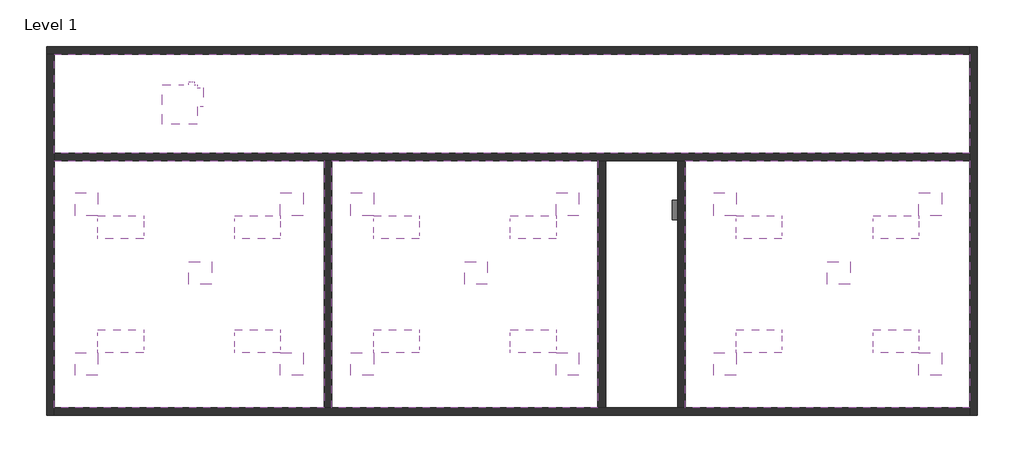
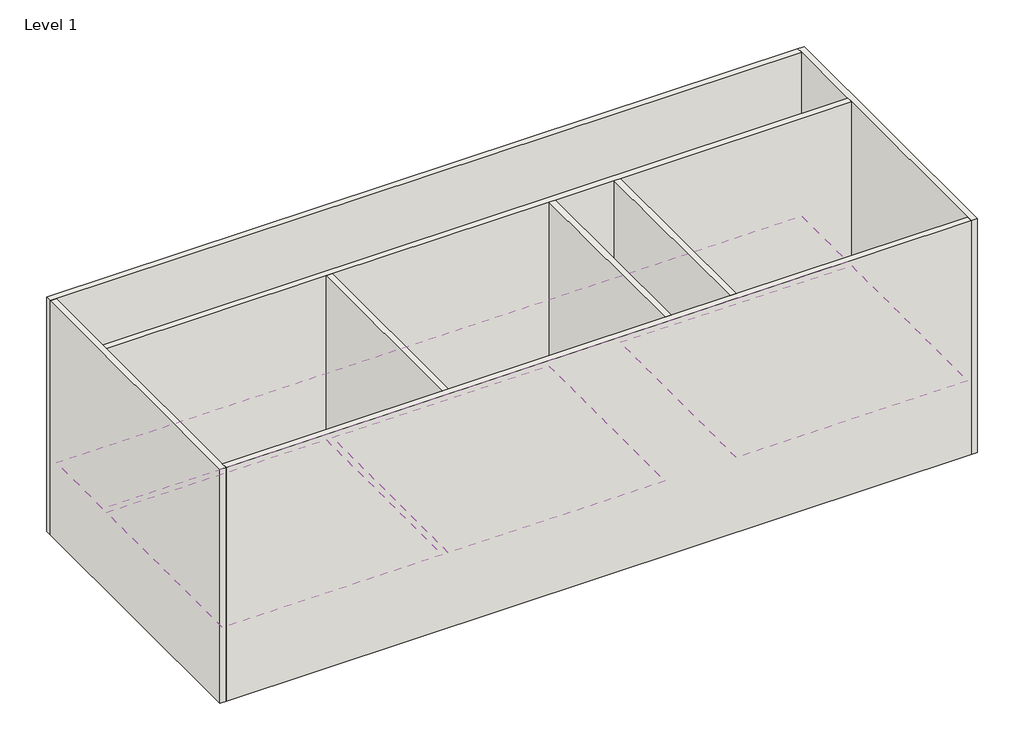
# One storey: 15 air terminals, 12 light fixtures, 8 walls, 4 coverings, 2 proxies.
"""IFC4 building model written with IfcOpenShell, lengths in millimetres."""

from ifc_helpers import new_model, si_unit, frame, origin, origin_with_axes, place, context, project, spatial, polyline, outline, extrude, faceted_brep, transform, mapped, element, save
from components import m_return_air_diffuser_m_600_x_600_face_300_x_300_connection_ff221211, proxy_250a_6d932d76, m_parallel_fan_powered_vav_m_size_2_150mm_inlet_9c7135f7, m_plain_recessed_lighting_fixture_m_600x1200_277_5b10b25d, m_plain_recessed_lighting_fixture_m_600x1200_277_dfd179b1

model = new_model("IFC4")

# Units and contexts
model_context = context("Model", 3, world=origin())
ifc_project = project(units=[si_unit("LENGTHUNIT", "METRE", prefix="MILLI")], contexts=[model_context])

# Site, building, storey
site = spatial("IfcSite", under=ifc_project)
building = spatial("IfcBuilding", under=site)
storey = spatial("IfcBuildingStorey", under=building, Name="Level 1", Elevation=0.0)

# Air terminals
placement = place(None, origin())
m_return_air_diffuser_m_600_x_600_face_300_x_300_connection_shape = m_return_air_diffuser_m_600_x_600_face_300_x_300_connection_ff221211(model_context)
element("IfcAirTerminal", 1, ObjectType="M_Return Air Diffuser : M_600 x 600 Face 300 x 300 Connection", at=placement, inside=storey, context=model_context, shape_type="MappedRepresentation", body=[
    mapped(m_return_air_diffuser_m_600_x_600_face_300_x_300_connection_shape, transform((-8576.2709161, -4662.8945822, 2400.0), x_axis=(1.0, 0.0, 0.0), y_axis=(0.0, 1.0, 0.0), z_axis=(0.0, 0.0, 1.0))),
])
element("IfcAirTerminal", 2, ObjectType="M_Return Air Diffuser : M_600 x 600 Face 300 x 300 Connection", at=placement, inside=storey, context=model_context, shape_type="MappedRepresentation", body=[
    mapped(m_return_air_diffuser_m_600_x_600_face_300_x_300_connection_shape, transform((-1326.2709161, -4662.8945822, 2400.0), x_axis=(1.0, 0.0, 0.0), y_axis=(0.0, 1.0, 0.0), z_axis=(0.0, 0.0, 1.0))),
])
element("IfcAirTerminal", 3, ObjectType="M_Return Air Diffuser : M_600 x 600 Face 300 x 300 Connection", at=placement, inside=storey, context=model_context, shape_type="MappedRepresentation", body=[
    mapped(m_return_air_diffuser_m_600_x_600_face_300_x_300_connection_shape, transform((8213.7290839, -4662.8945822, 2400.0), x_axis=(1.0, 0.0, 0.0), y_axis=(0.0, 1.0, 0.0), z_axis=(0.0, 0.0, 1.0))),
])
element("IfcAirTerminal", 4, ObjectType="M_Supply Diffuser : M_600 x 600 Face 300 x 300 Connection", at=placement, inside=storey, context=model_context, shape_type="MappedRepresentation", body=[
    mapped(m_return_air_diffuser_m_600_x_600_face_300_x_300_connection_shape, transform((-11571.4709161, -2858.0945822, 2400.0), x_axis=(1.0, 0.0, 0.0), y_axis=(0.0, 1.0, 0.0), z_axis=(0.0, 0.0, 1.0))),
])
element("IfcAirTerminal", 5, ObjectType="M_Supply Diffuser : M_600 x 600 Face 300 x 300 Connection", at=placement, inside=storey, context=model_context, shape_type="MappedRepresentation", body=[
    mapped(m_return_air_diffuser_m_600_x_600_face_300_x_300_connection_shape, transform((-6171.4709161, -2858.0945822, 2400.0), x_axis=(1.0, 0.0, 0.0), y_axis=(0.0, 1.0, 0.0), z_axis=(0.0, 0.0, 1.0))),
])
element("IfcAirTerminal", 6, ObjectType="M_Supply Diffuser : M_600 x 600 Face 300 x 300 Connection", at=placement, inside=storey, context=model_context, shape_type="MappedRepresentation", body=[
    mapped(m_return_air_diffuser_m_600_x_600_face_300_x_300_connection_shape, transform((-6171.4709161, -7058.0945822, 2400.0), x_axis=(1.0, 0.0, 0.0), y_axis=(0.0, 1.0, 0.0), z_axis=(0.0, 0.0, 1.0))),
])
element("IfcAirTerminal", 7, ObjectType="M_Supply Diffuser : M_600 x 600 Face 300 x 300 Connection", at=placement, inside=storey, context=model_context, shape_type="MappedRepresentation", body=[
    mapped(m_return_air_diffuser_m_600_x_600_face_300_x_300_connection_shape, transform((-11571.4709161, -7058.0945822, 2400.0), x_axis=(1.0, 0.0, 0.0), y_axis=(0.0, 1.0, 0.0), z_axis=(0.0, 0.0, 1.0))),
])
element("IfcAirTerminal", 8, ObjectType="M_Supply Diffuser : M_600 x 600 Face 300 x 300 Connection", at=placement, inside=storey, context=model_context, shape_type="MappedRepresentation", body=[
    mapped(m_return_air_diffuser_m_600_x_600_face_300_x_300_connection_shape, transform((-4321.4709161, -2858.0945822, 2400.0), x_axis=(1.0, 0.0, 0.0), y_axis=(0.0, 1.0, 0.0), z_axis=(0.0, 0.0, 1.0))),
])
element("IfcAirTerminal", 9, ObjectType="M_Supply Diffuser : M_600 x 600 Face 300 x 300 Connection", at=placement, inside=storey, context=model_context, shape_type="MappedRepresentation", body=[
    mapped(m_return_air_diffuser_m_600_x_600_face_300_x_300_connection_shape, transform((1078.5290839, -2858.0945822, 2400.0), x_axis=(1.0, 0.0, 0.0), y_axis=(0.0, 1.0, 0.0), z_axis=(0.0, 0.0, 1.0))),
])
element("IfcAirTerminal", 10, ObjectType="M_Supply Diffuser : M_600 x 600 Face 300 x 300 Connection", at=placement, inside=storey, context=model_context, shape_type="MappedRepresentation", body=[
    mapped(m_return_air_diffuser_m_600_x_600_face_300_x_300_connection_shape, transform((1078.5290839, -7058.0945822, 2400.0), x_axis=(1.0, 0.0, 0.0), y_axis=(0.0, 1.0, 0.0), z_axis=(0.0, 0.0, 1.0))),
])
element("IfcAirTerminal", 11, ObjectType="M_Supply Diffuser : M_600 x 600 Face 300 x 300 Connection", at=placement, inside=storey, context=model_context, shape_type="MappedRepresentation", body=[
    mapped(m_return_air_diffuser_m_600_x_600_face_300_x_300_connection_shape, transform((-4321.4709161, -7058.0945822, 2400.0), x_axis=(1.0, 0.0, 0.0), y_axis=(0.0, 1.0, 0.0), z_axis=(0.0, 0.0, 1.0))),
])
element("IfcAirTerminal", 12, ObjectType="M_Supply Diffuser : M_600 x 600 Face 300 x 300 Connection", at=placement, inside=storey, context=model_context, shape_type="MappedRepresentation", body=[
    mapped(m_return_air_diffuser_m_600_x_600_face_300_x_300_connection_shape, transform((5218.5290839, -2858.0945822, 2400.0), x_axis=(1.0, 0.0, 0.0), y_axis=(0.0, 1.0, 0.0), z_axis=(0.0, 0.0, 1.0))),
])
element("IfcAirTerminal", 13, ObjectType="M_Supply Diffuser : M_600 x 600 Face 300 x 300 Connection", at=placement, inside=storey, context=model_context, shape_type="MappedRepresentation", body=[
    mapped(m_return_air_diffuser_m_600_x_600_face_300_x_300_connection_shape, transform((10618.5290839, -2858.0945822, 2400.0), x_axis=(1.0, 0.0, 0.0), y_axis=(0.0, 1.0, 0.0), z_axis=(0.0, 0.0, 1.0))),
])
element("IfcAirTerminal", 14, ObjectType="M_Supply Diffuser : M_600 x 600 Face 300 x 300 Connection", at=placement, inside=storey, context=model_context, shape_type="MappedRepresentation", body=[
    mapped(m_return_air_diffuser_m_600_x_600_face_300_x_300_connection_shape, transform((10618.5290839, -7058.0945822, 2400.0), x_axis=(1.0, 0.0, 0.0), y_axis=(0.0, 1.0, 0.0), z_axis=(0.0, 0.0, 1.0))),
])
element("IfcAirTerminal", 15, ObjectType="M_Supply Diffuser : M_600 x 600 Face 300 x 300 Connection", at=placement, inside=storey, context=model_context, shape_type="MappedRepresentation", body=[
    mapped(m_return_air_diffuser_m_600_x_600_face_300_x_300_connection_shape, transform((5218.5290839, -7058.0945822, 2400.0), x_axis=(1.0, 0.0, 0.0), y_axis=(0.0, 1.0, 0.0), z_axis=(0.0, 0.0, 1.0))),
])

# Proxies
proxy_250a_shape = proxy_250a_6d932d76(model_context)
element("IfcBuildingElementProxy", 16, Name="480V MLO Lighting and Appliance Panelboards - Surface : 250A", ObjectType="480V MLO Lighting and Appliance Panelboards - Surface : 250A", at=placement, inside=storey, context=model_context, shape_type="MappedRepresentation", body=[
    mapped(proxy_250a_shape, transform((3978.5290839, -3008.0945822, 845.3274047), x_axis=(0.0, -1.0, 0.0), y_axis=(0.0, 0.0, 1.0), z_axis=(-1.0, 0.0, 0.0))),
])
m_parallel_fan_powered_vav_m_size_2_150mm_inlet_shape = m_parallel_fan_powered_vav_m_size_2_150mm_inlet_9c7135f7(model_context)
element("IfcBuildingElementProxy", 17, Name="M_Parallel Fan Powered VAV : M_Size 2 - 150mm Inlet", ObjectType="M_Parallel Fan Powered VAV : M_Size 2 - 150mm Inlet", at=placement, inside=storey, context=model_context, shape_type="MappedRepresentation", body=[
    mapped(m_parallel_fan_powered_vav_m_size_2_150mm_inlet_shape, transform((-9115.9882208, -233.7548955, 3750.0), x_axis=(0.0, -1.0, 0.0), y_axis=(1.0, 0.0, 0.0), z_axis=(0.0, 0.0, 1.0))),
])

# Coverings
element("IfcCovering", 18, ObjectType="600 x 600mm Grid", at=placement, inside=storey, context=model_context, shape_type="SweptSolid", body=[
    extrude(outline(polyline([(-12421.4709161, 1091.9054178), (11658.5290839, 1091.9054178), (11658.5290839, -1508.0945822), (-12421.4709161, -1508.0945822), (-12421.4709161, 1091.9054178)])), frame((0.0, 0.0, 2400.0), z_axis=(0.0, 0.0, 1.0), x_axis=(1.0, 0.0, 0.0)), (0.0, 0.0, 1.0), 52.0),
])
element("IfcCovering", 19, ObjectType="600 x 600mm Grid", at=placement, inside=storey, context=model_context, shape_type="SweptSolid", body=[
    extrude(outline(polyline([(-12421.4709161, -8208.0945822), (-12421.4709161, -1708.0945822), (-5321.4709161, -1708.0945822), (-5321.4709161, -8208.0945822), (-12421.4709161, -8208.0945822)])), frame((0.0, 0.0, 2400.0), z_axis=(0.0, 0.0, 1.0), x_axis=(1.0, 0.0, 0.0)), (0.0, 0.0, 1.0), 52.0),
])
element("IfcCovering", 20, ObjectType="600 x 600mm Grid", at=placement, inside=storey, context=model_context, shape_type="SweptSolid", body=[
    extrude(outline(polyline([(1878.5290839, -8208.0945822), (-5121.4709161, -8208.0945822), (-5121.4709161, -1708.0945822), (1878.5290839, -1708.0945822), (1878.5290839, -8208.0945822)])), frame((0.0, 0.0, 2400.0), z_axis=(0.0, 0.0, 1.0), x_axis=(1.0, 0.0, 0.0)), (0.0, 0.0, 1.0), 52.0),
])
element("IfcCovering", 21, ObjectType="600 x 600mm Grid", at=placement, inside=storey, context=model_context, shape_type="SweptSolid", body=[
    extrude(outline(polyline([(11658.5290839, -8208.0945822), (4178.5290839, -8208.0945822), (4178.5290839, -1708.0945822), (11658.5290839, -1708.0945822), (11658.5290839, -8208.0945822)])), frame((0.0, 0.0, 2400.0), z_axis=(0.0, 0.0, 1.0), x_axis=(1.0, 0.0, 0.0)), (0.0, 0.0, 1.0), 52.0),
])

# Light fixtures
m_plain_recessed_lighting_fixture_m_600x1200_277_shape = m_plain_recessed_lighting_fixture_m_600x1200_277_5b10b25d(model_context)
element("IfcLightFixture", 22, ObjectType="M_Plain Recessed Lighting Fixture : M_600x1200 - 277", at=placement, inside=storey, context=model_context, shape_type="MappedRepresentation", body=[
    mapped(m_plain_recessed_lighting_fixture_m_600x1200_277_shape, transform((-11271.4709161, -3758.0945822, 2400.0), x_axis=(1.0, 0.0, 0.0), y_axis=(0.0, -1.0, 0.0), z_axis=(0.0, 0.0, -1.0))),
])
element("IfcLightFixture", 23, ObjectType="M_Plain Recessed Lighting Fixture : M_600x1200 - 277", at=placement, inside=storey, context=model_context, shape_type="MappedRepresentation", body=[
    mapped(m_plain_recessed_lighting_fixture_m_600x1200_277_shape, transform((-7671.4709161, -3758.0945822, 2400.0), x_axis=(1.0, 0.0, 0.0), y_axis=(0.0, -1.0, 0.0), z_axis=(0.0, 0.0, -1.0))),
])
element("IfcLightFixture", 24, ObjectType="M_Plain Recessed Lighting Fixture : M_600x1200 - 277", at=placement, inside=storey, context=model_context, shape_type="MappedRepresentation", body=[
    mapped(m_plain_recessed_lighting_fixture_m_600x1200_277_shape, transform((-4021.4709161, -3758.0945822, 2400.0), x_axis=(1.0, 0.0, 0.0), y_axis=(0.0, -1.0, 0.0), z_axis=(0.0, 0.0, -1.0))),
])
element("IfcLightFixture", 25, ObjectType="M_Plain Recessed Lighting Fixture : M_600x1200 - 277", at=placement, inside=storey, context=model_context, shape_type="MappedRepresentation", body=[
    mapped(m_plain_recessed_lighting_fixture_m_600x1200_277_shape, transform((-421.4709161, -3758.0945822, 2400.0), x_axis=(1.0, 0.0, 0.0), y_axis=(0.0, -1.0, 0.0), z_axis=(0.0, 0.0, -1.0))),
])
element("IfcLightFixture", 26, ObjectType="M_Plain Recessed Lighting Fixture : M_600x1200 - 277", at=placement, inside=storey, context=model_context, shape_type="MappedRepresentation", body=[
    mapped(m_plain_recessed_lighting_fixture_m_600x1200_277_shape, transform((5518.5290839, -3758.0945822, 2400.0), x_axis=(1.0, 0.0, 0.0), y_axis=(0.0, -1.0, 0.0), z_axis=(0.0, 0.0, -1.0))),
])
element("IfcLightFixture", 27, ObjectType="M_Plain Recessed Lighting Fixture : M_600x1200 - 277", at=placement, inside=storey, context=model_context, shape_type="MappedRepresentation", body=[
    mapped(m_plain_recessed_lighting_fixture_m_600x1200_277_shape, transform((9118.5290839, -3758.0945822, 2400.0), x_axis=(1.0, 0.0, 0.0), y_axis=(0.0, -1.0, 0.0), z_axis=(0.0, 0.0, -1.0))),
])
m_plain_recessed_lighting_fixture_m_600x1200_277_2_shape = m_plain_recessed_lighting_fixture_m_600x1200_277_dfd179b1(model_context)
element("IfcLightFixture", 28, ObjectType="M_Plain Recessed Lighting Fixture : M_600x1200 - 277", at=placement, inside=storey, context=model_context, shape_type="MappedRepresentation", body=[
    mapped(m_plain_recessed_lighting_fixture_m_600x1200_277_2_shape, transform((-11271.4709161, -6158.0945822, 2400.0), x_axis=(1.0, 0.0, 0.0), y_axis=(0.0, -1.0, 0.0), z_axis=(0.0, 0.0, -1.0))),
])
element("IfcLightFixture", 29, ObjectType="M_Plain Recessed Lighting Fixture : M_600x1200 - 277", at=placement, inside=storey, context=model_context, shape_type="MappedRepresentation", body=[
    mapped(m_plain_recessed_lighting_fixture_m_600x1200_277_2_shape, transform((-7671.4709161, -6158.0945822, 2400.0), x_axis=(1.0, 0.0, 0.0), y_axis=(0.0, -1.0, 0.0), z_axis=(0.0, 0.0, -1.0))),
])
element("IfcLightFixture", 30, ObjectType="M_Plain Recessed Lighting Fixture : M_600x1200 - 277", at=placement, inside=storey, context=model_context, shape_type="MappedRepresentation", body=[
    mapped(m_plain_recessed_lighting_fixture_m_600x1200_277_2_shape, transform((-4021.4709161, -6158.0945822, 2400.0), x_axis=(1.0, 0.0, 0.0), y_axis=(0.0, -1.0, 0.0), z_axis=(0.0, 0.0, -1.0))),
])
element("IfcLightFixture", 31, ObjectType="M_Plain Recessed Lighting Fixture : M_600x1200 - 277", at=placement, inside=storey, context=model_context, shape_type="MappedRepresentation", body=[
    mapped(m_plain_recessed_lighting_fixture_m_600x1200_277_2_shape, transform((-421.4709161, -6158.0945822, 2400.0), x_axis=(1.0, 0.0, 0.0), y_axis=(0.0, -1.0, 0.0), z_axis=(0.0, 0.0, -1.0))),
])
element("IfcLightFixture", 32, ObjectType="M_Plain Recessed Lighting Fixture : M_600x1200 - 277", at=placement, inside=storey, context=model_context, shape_type="MappedRepresentation", body=[
    mapped(m_plain_recessed_lighting_fixture_m_600x1200_277_2_shape, transform((5518.5290839, -6158.0945822, 2400.0), x_axis=(1.0, 0.0, 0.0), y_axis=(0.0, -1.0, 0.0), z_axis=(0.0, 0.0, -1.0))),
])
element("IfcLightFixture", 33, ObjectType="M_Plain Recessed Lighting Fixture : M_600x1200 - 277", at=placement, inside=storey, context=model_context, shape_type="MappedRepresentation", body=[
    mapped(m_plain_recessed_lighting_fixture_m_600x1200_277_2_shape, transform((9118.5290839, -6158.0945822, 2400.0), x_axis=(1.0, 0.0, 0.0), y_axis=(0.0, -1.0, 0.0), z_axis=(0.0, 0.0, -1.0))),
])

# Walls
element("IfcWall", 34, ObjectType="Generic - 200mm", at=placement, inside=storey, context=model_context, shape_type="Brep", body=[
    faceted_brep([(-12621.4709161, 1091.9054178, 0.0), (-12421.4709161, 1091.9054178, 0.0), (11658.5290839, 1091.9054178, 0.0), (11658.5290839, 1091.9054178, 8000.0), (-12421.4709161, 1091.9054178, 8000.0), (-12621.4709161, 1091.9054178, 8000.0), (-12621.4709161, 1291.9054178, 0.0), (-12621.4709161, 1291.9054178, 8000.0), (11658.5290839, 1291.9054178, 8000.0), (11658.5290839, 1291.9054178, 0.0)], [[[0, 1, 2, 3, 4, 5]], [[6, 7, 8, 9]], [[2, 1, 0, 6, 9]], [[5, 4, 3, 8, 7]], [[0, 5, 7, 6]], [[3, 2, 9, 8]]]),
])
element("IfcWall", 35, ObjectType="Generic - 200mm", at=placement, inside=storey, context=model_context, shape_type="Brep", body=[
    faceted_brep([(-12421.4709161, -8408.0945822, 0.0), (-12421.4709161, -8208.0945822, 0.0), (-12421.4709161, -1708.0945822, 0.0), (-12421.4709161, -1508.0945822, 0.0), (-12421.4709161, 1091.9054178, 0.0), (-12421.4709161, 1091.9054178, 8000.0), (-12421.4709161, -1508.0945822, 8000.0), (-12421.4709161, -1708.0945822, 8000.0), (-12421.4709161, -8208.0945822, 8000.0), (-12421.4709161, -8408.0945822, 8000.0), (-12621.4709161, -8408.0945822, 0.0), (-12621.4709161, -8408.0945822, 8000.0), (-12621.4709161, 1091.9054178, 8000.0), (-12621.4709161, 1091.9054178, 0.0)], [[[0, 1, 2, 3, 4, 5, 6, 7, 8, 9]], [[10, 11, 12, 13]], [[4, 3, 2, 1, 0, 10, 13]], [[9, 8, 7, 6, 5, 12, 11]], [[0, 9, 11, 10]], [[5, 4, 13, 12]]]),
])
element("IfcWall", 36, ObjectType="Generic - 200mm", at=placement, inside=storey, context=model_context, shape_type="Brep", body=[
    faceted_brep([(11658.5290839, -8208.0945822, 0.0), (4178.5290839, -8208.0945822, 0.0), (3978.5290839, -8208.0945822, 0.0), (2078.5290839, -8208.0945822, 0.0), (1878.5290839, -8208.0945822, 0.0), (-5121.4709161, -8208.0945822, 0.0), (-5321.4709161, -8208.0945822, 0.0), (-12421.4709161, -8208.0945822, 0.0), (-12421.4709161, -8208.0945822, 8000.0), (-5321.4709161, -8208.0945822, 8000.0), (-5121.4709161, -8208.0945822, 8000.0), (1878.5290839, -8208.0945822, 8000.0), (2078.5290839, -8208.0945822, 8000.0), (3978.5290839, -8208.0945822, 8000.0), (4178.5290839, -8208.0945822, 8000.0), (11658.5290839, -8208.0945822, 8000.0), (11658.5290839, -8408.0945822, 0.0), (11658.5290839, -8408.0945822, 8000.0), (-12421.4709161, -8408.0945822, 8000.0), (-12421.4709161, -8408.0945822, 0.0)], [[[0, 1, 2, 3, 4, 5, 6, 7, 8, 9, 10, 11, 12, 13, 14, 15]], [[16, 17, 18, 19]], [[7, 6, 5, 4, 3, 2, 1, 0, 16, 19]], [[15, 14, 13, 12, 11, 10, 9, 8, 18, 17]], [[8, 7, 19, 18]], [[0, 15, 17, 16]]]),
])
element("IfcWall", 37, ObjectType="Generic - 200mm", at=placement, inside=storey, context=model_context, shape_type="Brep", body=[
    faceted_brep([(11658.5290839, 1291.9054178, 0.0), (11658.5290839, 1091.9054178, 0.0), (11658.5290839, -1508.0945822, 0.0), (11658.5290839, -1708.0945822, 0.0), (11658.5290839, -8208.0945822, 0.0), (11658.5290839, -8408.0945822, 0.0), (11658.5290839, -8408.0945822, 8000.0), (11658.5290839, -8208.0945822, 8000.0), (11658.5290839, -1708.0945822, 8000.0), (11658.5290839, -1508.0945822, 8000.0), (11658.5290839, 1091.9054178, 8000.0), (11658.5290839, 1291.9054178, 8000.0), (11858.5290839, 1291.9054178, 0.0), (11858.5290839, 1291.9054178, 8000.0), (11858.5290839, -8408.0945822, 8000.0), (11858.5290839, -8408.0945822, 0.0)], [[[0, 1, 2, 3, 4, 5, 6, 7, 8, 9, 10, 11]], [[12, 13, 14, 15]], [[5, 4, 3, 2, 1, 0, 12, 15]], [[11, 10, 9, 8, 7, 6, 14, 13]], [[0, 11, 13, 12]], [[6, 5, 15, 14]]]),
])
element("IfcWall", 38, ObjectType="Generic - 200mm", at=placement, inside=storey, context=model_context, shape_type="Brep", body=[
    faceted_brep([(-12421.4709161, -1708.0945822, 0.0), (-5321.4709161, -1708.0945822, 0.0), (-5121.4709161, -1708.0945822, 0.0), (1878.5290839, -1708.0945822, 0.0), (2078.5290839, -1708.0945822, 0.0), (3978.5290839, -1708.0945822, 0.0), (4178.5290839, -1708.0945822, 0.0), (11658.5290839, -1708.0945822, 0.0), (11658.5290839, -1708.0945822, 8000.0), (4178.5290839, -1708.0945822, 8000.0), (3978.5290839, -1708.0945822, 8000.0), (2078.5290839, -1708.0945822, 8000.0), (1878.5290839, -1708.0945822, 8000.0), (-5121.4709161, -1708.0945822, 8000.0), (-5321.4709161, -1708.0945822, 8000.0), (-12421.4709161, -1708.0945822, 8000.0), (-12421.4709161, -1508.0945822, 0.0), (-12421.4709161, -1508.0945822, 8000.0), (11658.5290839, -1508.0945822, 8000.0), (11658.5290839, -1508.0945822, 0.0)], [[[0, 1, 2, 3, 4, 5, 6, 7, 8, 9, 10, 11, 12, 13, 14, 15]], [[16, 17, 18, 19]], [[7, 6, 5, 4, 3, 2, 1, 0, 16, 19]], [[15, 14, 13, 12, 11, 10, 9, 8, 18, 17]], [[0, 15, 17, 16]], [[8, 7, 19, 18]]]),
])
element("IfcWall", 39, ObjectType="Generic - 200mm", at=placement, inside=storey, context=model_context, shape_type="SweptSolid", body=[
    extrude(outline(polyline([(-5321.4709161, -8208.0945822), (-5321.4709161, -1708.0945822), (-5121.4709161, -1708.0945822), (-5121.4709161, -8208.0945822), (-5321.4709161, -8208.0945822)])), origin_with_axes(), (0.0, 0.0, 1.0), 8000.0),
])
element("IfcWall", 40, ObjectType="Generic - 200mm", at=placement, inside=storey, context=model_context, shape_type="SweptSolid", body=[
    extrude(outline(polyline([(1878.5290839, -8208.0945822), (1878.5290839, -1708.0945822), (2078.5290839, -1708.0945822), (2078.5290839, -8208.0945822), (1878.5290839, -8208.0945822)])), origin_with_axes(), (0.0, 0.0, 1.0), 8000.0),
])
element("IfcWall", 41, ObjectType="Generic - 200mm", at=placement, inside=storey, context=model_context, shape_type="SweptSolid", body=[
    extrude(outline(polyline([(3978.5290839, -8208.0945822), (3978.5290839, -1708.0945822), (4178.5290839, -1708.0945822), (4178.5290839, -8208.0945822), (3978.5290839, -8208.0945822)])), origin_with_axes(), (0.0, 0.0, 1.0), 8000.0),
])

save(model, "model.ifc")
